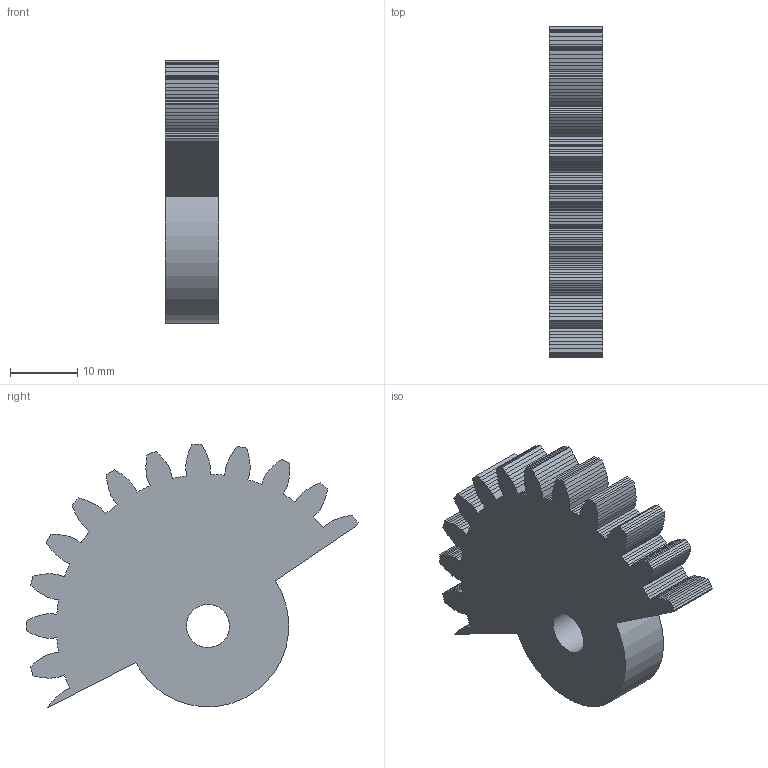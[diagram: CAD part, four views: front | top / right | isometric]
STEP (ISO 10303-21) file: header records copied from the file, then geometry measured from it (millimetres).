
FILE_DESCRIPTION(('Open CASCADE Model'),'2;1');
FILE_NAME('Open CASCADE Shape Model','2026-10-15T19:48:39',('Author'),( 'Open CASCADE'),'Open CASCADE STEP processor 7.9','Open CASCADE 7.9' ,'Unknown');
FILE_SCHEMA(('AUTOMOTIVE_DESIGN { 1 0 10303 214 1 1 1 1 }'));
Length unit declared in the file: millimetre
Products named in the file (1): Open CASCADE STEP translator 7.9 19
Bounding box: 8 x 49.26 x 39.13 mm (x, y, z)
Volume: 9035.7 mm3; surface area: 4228.8 mm2
Topology: 1 solids, 1 shells, 307 faces, 915 edges, 610 vertices
Faces by surface type: plane 305, cylinder 2
Full cylindrical faces by diameter (mm): 6.4 x1
Entity records: 22000 total; most frequent: CARTESIAN_POINT 3683, DIRECTION 3355, LINE 2729, VECTOR 2729, ORIENTED_EDGE 1830, PCURVE 1830, DEFINITIONAL_REPRESENTATION 1830, EDGE_CURVE 915
